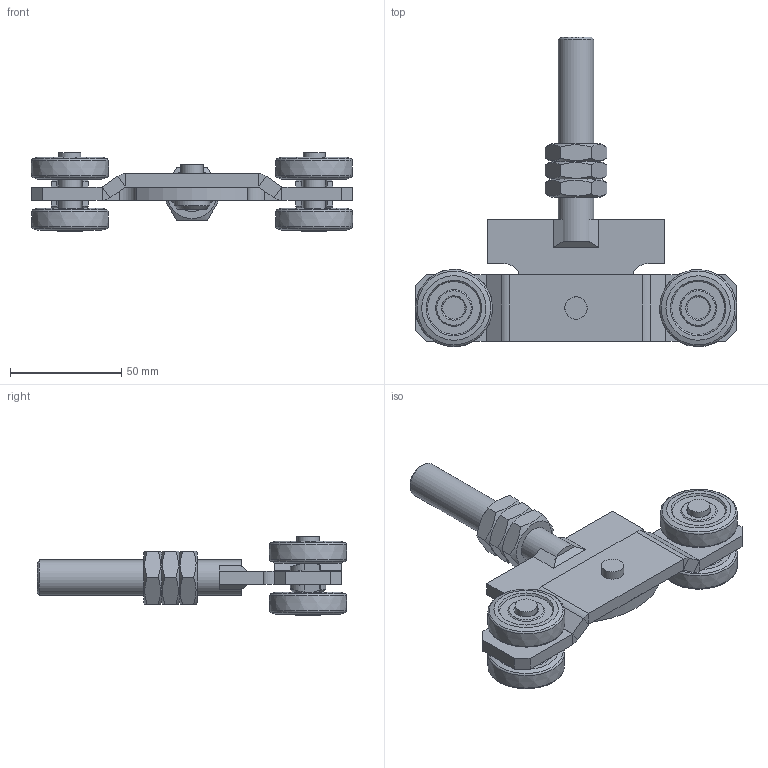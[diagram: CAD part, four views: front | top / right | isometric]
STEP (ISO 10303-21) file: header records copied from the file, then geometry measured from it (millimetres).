
FILE_DESCRIPTION(/* description */ ('Doppelrolle mit Schraub Nr.2'),/* implementation_level */ '2;1');
FILE_NAME(/* name */ 'Q:\sge-ma\Produktmanagement-STB\STB\Workspace\stp\010336974.stp',/* time_stamp */ '2016-07-14T09:40:16+02:00',/* author */ ('avschreier'),/* organization */ (''),/* preprocessor_version */ 'ST-DEVELOPER v16.1',/* originating_system */ 'Autodesk Inventor 2016',/* authorisation */ '');
FILE_SCHEMA (('AUTOMOTIVE_DESIGN { 1 0 10303 214 3 1 1 }'));
Length unit declared in the file: millimetre
Products named in the file (10): 010336974_Schweißnähte; 000302064; 337000121; 000302242; 000303236; 000302008; 336290020; 000304013; DIN_EN_ISO_4035-M16_en; 010336974
Assembly tree (18 placements, depth 2):
  010336974
    010336974_Schweißnähte
    000302064
    337000121
    000302242
    000303236  x4
    000302008
    336290020  x4
    000304013  x2
    DIN_EN_ISO_4035-M16_en  x3
Bounding box: 145 x 139.44 x 35.5 mm (x, y, z)
Volume: 108984.8 mm3; surface area: 46553.2 mm2
Topology: 19 solids, 19 shells, 373 faces, 857 edges, 541 vertices
Faces by surface type: plane 228, cylinder 51, cone 48, bspline 36, torus 10
Full cylindrical faces by diameter (mm): 10 x7, 10.1 x1, 10.3 x1, 12 x2, 13.835 x3, 16 x2
Entity records: 5975 total; most frequent: CARTESIAN_POINT 1993, DIRECTION 808, ORIENTED_EDGE 714, EDGE_CURVE 357, AXIS2_PLACEMENT_3D 293, VERTEX_POINT 238, LINE 222, VECTOR 222
